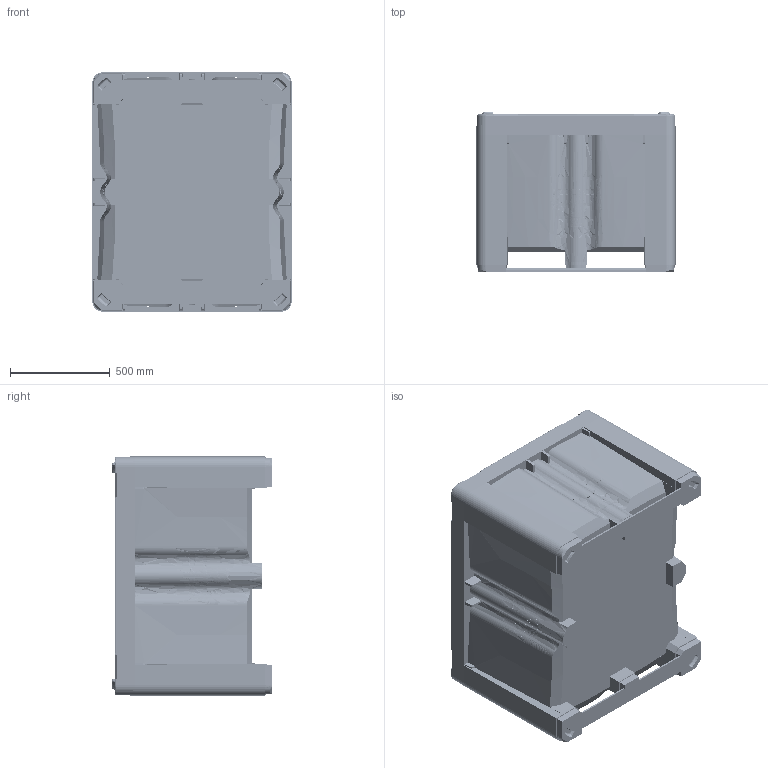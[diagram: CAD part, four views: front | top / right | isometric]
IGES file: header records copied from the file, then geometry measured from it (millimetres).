
Start section: SolidWorks IGES file using analytic representation for surfaces
Global section: file name: C:\ProdVault\Production Data\Hybrid 1012\1110xxxxxxxx 1012-790 Hybrid Block ShortFoot 4way.IGS; native system: SolidWorks 2018; preprocessor: SolidWorks 2018; author: Todd Turner; date: 180824.164927; units: millimetre
Bounding box: 1000 x 802.5 x 1200 mm (x, y, z)
Surface area: 9905685 mm2 (no closed solid volume)
Topology: 0 solids, 0 shells, 6171 faces, 102798 edges, 102775 vertices
Faces by surface type: bspline 5681, revolution 490
